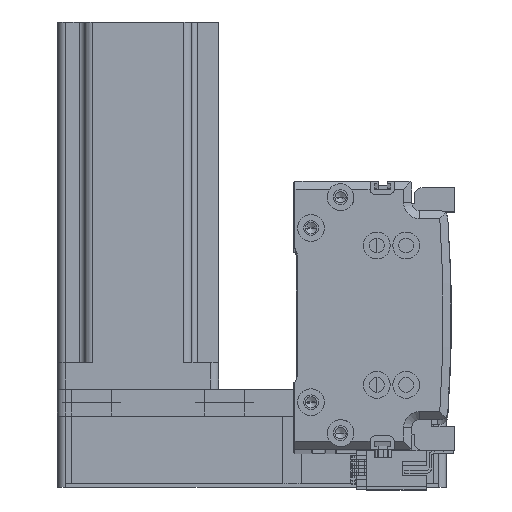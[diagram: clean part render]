
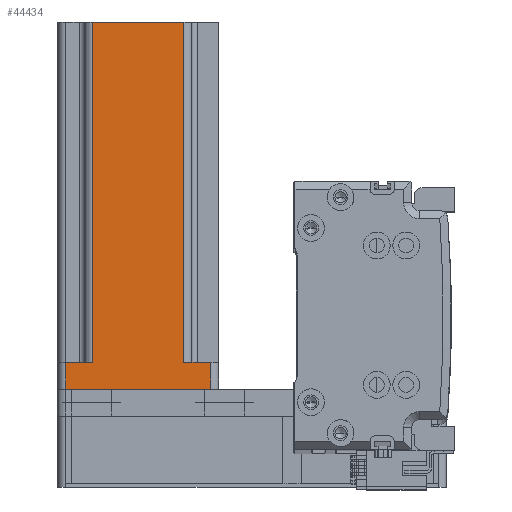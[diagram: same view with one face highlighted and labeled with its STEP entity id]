
A CAD part, top view. The second image highlights one B-rep face of the part: STEP entity #44434.
In plain terms, the highlighted planar face has unit normal (0, 0, 1) as drawn and (0, 1, 0) by its records, which use the part's own axes.
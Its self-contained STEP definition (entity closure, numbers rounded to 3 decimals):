
#491 = CARTESIAN_POINT ( 'NONE',  ( 30., 30., 137. ) ) ;
#792 = ORIENTED_EDGE ( 'NONE', *, *, #50650, .T. ) ;
#3704 = VECTOR ( 'NONE', #30400, 1000. ) ;
#4549 = DIRECTION ( 'NONE',  ( 1., 0., 0. ) ) ;
#6473 = VECTOR ( 'NONE', #22679, 1000. ) ;
#9018 = VERTEX_POINT ( 'NONE', #41039 ) ;
#9596 = DIRECTION ( 'NONE',  ( 0., 0., 1. ) ) ;
#9640 = VERTEX_POINT ( 'NONE', #46236 ) ;
#9982 = EDGE_CURVE ( 'NONE', #9018, #33558, #24129, .T. ) ;
#10068 = LINE ( 'NONE', #23669, #50232 ) ;
#10303 = EDGE_CURVE ( 'NONE', #16900, #33558, #17180, .T. ) ;
#11623 = EDGE_LOOP ( 'NONE', ( #32249, #18220, #40721, #19541, #35196, #792, #41195, #28497 ) ) ;
#12199 = CARTESIAN_POINT ( 'NONE',  ( -17., 30., 10. ) ) ;
#12709 = DIRECTION ( 'NONE',  ( -1., 0., 0. ) ) ;
#14499 = LINE ( 'NONE', #35060, #34606 ) ;
#15640 = LINE ( 'NONE', #26324, #3704 ) ;
#16900 = VERTEX_POINT ( 'NONE', #12199 ) ;
#17180 = LINE ( 'NONE', #42686, #6473 ) ;
#17703 = CARTESIAN_POINT ( 'NONE',  ( -27., 30., 137. ) ) ;
#18220 = ORIENTED_EDGE ( 'NONE', *, *, #10303, .T. ) ;
#18687 = LINE ( 'NONE', #26266, #40020 ) ;
#19073 = DIRECTION ( 'NONE',  ( -1., 0., 0. ) ) ;
#19541 = ORIENTED_EDGE ( 'NONE', *, *, #47995, .T. ) ;
#20164 = AXIS2_PLACEMENT_3D ( 'NONE', #491, #28606, #4549 ) ;
#20457 = CARTESIAN_POINT ( 'NONE',  ( 27., 30., 10. ) ) ;
#20599 = EDGE_CURVE ( 'NONE', #43286, #29718, #15640, .T. ) ;
#21158 = FACE_OUTER_BOUND ( 'NONE', #11623, .T. ) ;
#21331 = EDGE_CURVE ( 'NONE', #34290, #16900, #18687, .T. ) ;
#22395 = CARTESIAN_POINT ( 'NONE',  ( 17., 30., 137. ) ) ;
#22679 = DIRECTION ( 'NONE',  ( 0., 0., 1. ) ) ;
#23475 = CARTESIAN_POINT ( 'NONE',  ( 27., 30., 0. ) ) ;
#23669 = CARTESIAN_POINT ( 'NONE',  ( 27., 30., 137. ) ) ;
#24129 = LINE ( 'NONE', #40773, #33588 ) ;
#24649 = LINE ( 'NONE', #22395, #44713 ) ;
#26266 = CARTESIAN_POINT ( 'NONE',  ( -20., 30., 10. ) ) ;
#26324 = CARTESIAN_POINT ( 'NONE',  ( 30., 30., 0. ) ) ;
#26511 = LINE ( 'NONE', #17703, #37181 ) ;
#28497 = ORIENTED_EDGE ( 'NONE', *, *, #30961, .T. ) ;
#28606 = DIRECTION ( 'NONE',  ( 0., -1., 0. ) ) ;
#29718 = VERTEX_POINT ( 'NONE', #40502 ) ;
#30400 = DIRECTION ( 'NONE',  ( -1., 0., 0. ) ) ;
#30961 = EDGE_CURVE ( 'NONE', #29718, #34290, #26511, .T. ) ;
#31722 = EDGE_CURVE ( 'NONE', #43439, #9640, #14499, .T. ) ;
#32249 = ORIENTED_EDGE ( 'NONE', *, *, #21331, .T. ) ;
#33024 = CARTESIAN_POINT ( 'NONE',  ( -17., 30., 137. ) ) ;
#33558 = VERTEX_POINT ( 'NONE', #33024 ) ;
#33588 = VECTOR ( 'NONE', #12709, 1000. ) ;
#34290 = VERTEX_POINT ( 'NONE', #41342 ) ;
#34523 = DIRECTION ( 'NONE',  ( 0., 0., -1. ) ) ;
#34606 = VECTOR ( 'NONE', #19073, 1000. ) ;
#35060 = CARTESIAN_POINT ( 'NONE',  ( 20., 30., 10. ) ) ;
#35196 = ORIENTED_EDGE ( 'NONE', *, *, #31722, .F. ) ;
#36505 = PLANE ( 'NONE',  #20164 ) ;
#37181 = VECTOR ( 'NONE', #9596, 1000. ) ;
#40020 = VECTOR ( 'NONE', #50263, 1000. ) ;
#40502 = CARTESIAN_POINT ( 'NONE',  ( -27., 30., 0. ) ) ;
#40721 = ORIENTED_EDGE ( 'NONE', *, *, #9982, .F. ) ;
#40773 = CARTESIAN_POINT ( 'NONE',  ( 30., 30., 137. ) ) ;
#41039 = CARTESIAN_POINT ( 'NONE',  ( 17., 30., 137. ) ) ;
#41195 = ORIENTED_EDGE ( 'NONE', *, *, #20599, .T. ) ;
#41342 = CARTESIAN_POINT ( 'NONE',  ( -27., 30., 10. ) ) ;
#42686 = CARTESIAN_POINT ( 'NONE',  ( -17., 30., 137. ) ) ;
#43286 = VERTEX_POINT ( 'NONE', #23475 ) ;
#43439 = VERTEX_POINT ( 'NONE', #20457 ) ;
#43846 = DIRECTION ( 'NONE',  ( 0., 0., -1. ) ) ;
#44434 = ADVANCED_FACE ( 'NONE', ( #21158 ), #36505, .F. ) ;
#44713 = VECTOR ( 'NONE', #34523, 1000. ) ;
#46236 = CARTESIAN_POINT ( 'NONE',  ( 17., 30., 10. ) ) ;
#47995 = EDGE_CURVE ( 'NONE', #9018, #9640, #24649, .T. ) ;
#50232 = VECTOR ( 'NONE', #43846, 1000. ) ;
#50263 = DIRECTION ( 'NONE',  ( 1., 0., 0. ) ) ;
#50650 = EDGE_CURVE ( 'NONE', #43439, #43286, #10068, .T. ) ;
